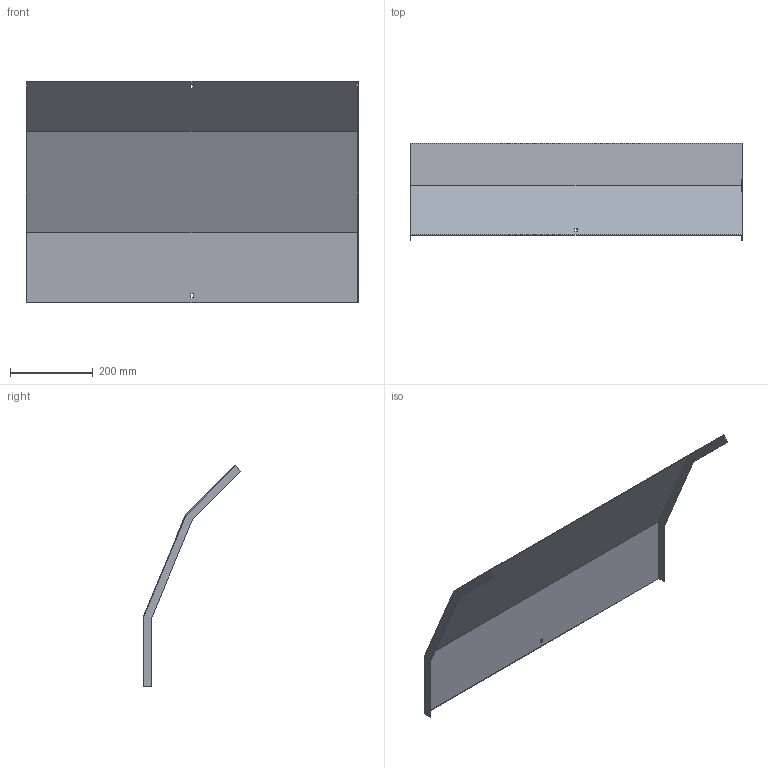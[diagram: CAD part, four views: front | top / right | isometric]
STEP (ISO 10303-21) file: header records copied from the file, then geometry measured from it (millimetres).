
FILE_DESCRIPTION (( 'STEP AP214' ), '1' );
FILE_NAME ('A2_34N3C800.step', '2025-02-21T10:34:33', ( '' ), ( '' ), 'SwSTEP 2.0', 'SolidWorks 2023', '' );
FILE_SCHEMA (( 'AUTOMOTIVE_DESIGN' ));
Length unit declared in the file: millimetre
Products named in the file (1): A2_34N3C800
Bounding box: 803 x 235.79 x 535.1 mm (x, y, z)
Volume: 760821.4 mm3; surface area: 1018810.3 mm2
Topology: 1 solids, 1 shells, 26 faces, 72 edges, 48 vertices
Faces by surface type: plane 26
Entity records: 847 total; most frequent: CARTESIAN_POINT 147, ORIENTED_EDGE 144, DIRECTION 126, LINE 72, VECTOR 72, EDGE_CURVE 72, VERTEX_POINT 48, EDGE_LOOP 30
